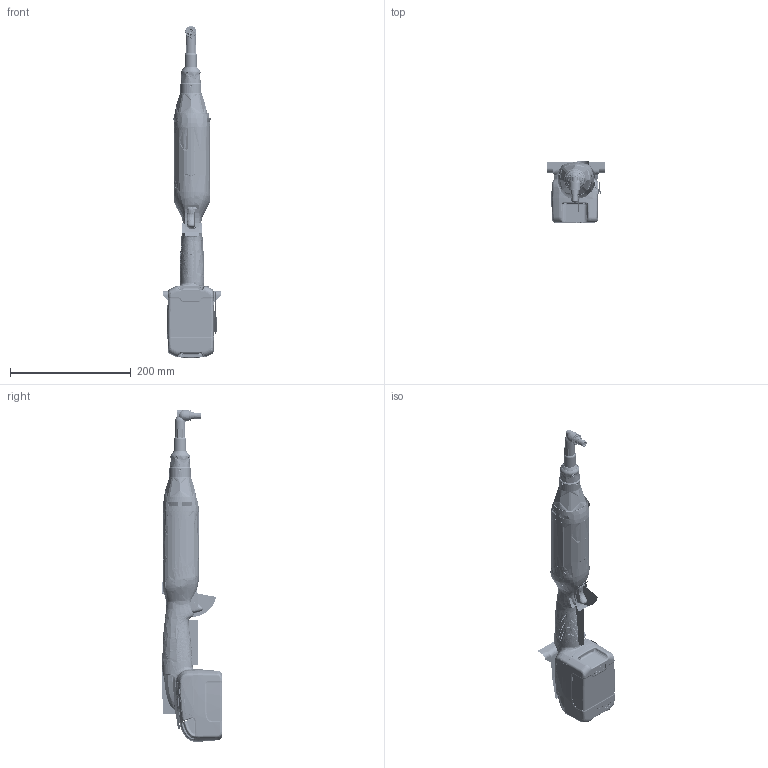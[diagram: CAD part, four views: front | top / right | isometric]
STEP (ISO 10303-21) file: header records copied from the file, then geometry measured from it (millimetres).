
FILE_DESCRIPTION((''),'2;1');
FILE_NAME('47519395001_ASM','2014-06-02T',('rryoung'),(''),'PRO/ENGINEER BY PARAMETRIC TECHNOLOGY CORPORATION, 2012450','PRO/ENGINEER BY PARAMETRIC TECHNOLOGY CORPORATION, 2012450','');
FILE_SCHEMA(('CONFIG_CONTROL_DESIGN'));
Products named in the file (76): 48617062M56; 48617062M55; 48617062M54; 48617062M52; 48617062M53; 48617062M34; 48617062M35; 48617062M36; 48617062M37; 48617062M38; 48617062M39; 48617062M40; 48617062M41; 48617062M42; 48617062M43; 48617062M44; 48617062M45; 48617062M46; 48617062M47; 48617062M48; 48617062M49; 48617062M50; 48617062M51; 48617062M1; 48617062M2; 48617062M3; 48617062M4; 48617062M5; 48617062M6; 48617062M7; 48617062M8; 48617062M9; 48617062M10; 48617062M11; 48617062M12; 48617062M13; 48617062M14; 48617062M15; 48617062M16; 48617062M17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
Assembly tree (86 placements, depth 3):
  47519395001_ASM
    48617062_ASM
      48617062M56
      48617062M55
      48617062M54
      48617062M52
      48617062M53
      48617062M34
      48617062M35
      48617062M36
      48617062M37
      48617062M38
      48617062M39
      48617062M40
      48617062M41
      48617062M42
      48617062M43
      48617062M44
      48617062M45
      48617062M46
      48617062M47
      48617062M48
      48617062M49
      48617062M50
      48617062M51
      48617062M1
      48617062M2
      48617062M3
      48617062M4
      48617062M5
      48617062M6
      48617062M7
      48617062M8
      48617062M9
      48617062M10
      48617062M11
      48617062M12  x2
      48617062M13  x2
      48617062M14  x2
      48617062M15  x2
      48617062M16  x2
      48617062M17  x2
      48617062M18  x2
      48617062M19  x2
      48617062M20  x2
      48617062M21  x2
      48617062M22  x2
      48617062M23
      48617062M24
      48617062M25
      48617062M26
      48617062M27
      48617062M28
      48617062M29
      48617062M30
      48617062M31
      48617062M32
      48617062M33
    24224537
    47507311001_ASM
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Bounding box: 96 x 101 x 550.35 mm (x, y, z)
Volume: 397417.7 mm3; surface area: 965465.9 mm2
Topology: 82 solids, 373 shells, 15103 faces, 39303 edges, 24533 vertices
Faces by surface type: plane 4808, bspline 4364, cylinder 3239, torus 1152, cone 837, extrusion 361, sphere 327, revolution 15
Entity records: 774867 total; most frequent: CARTESIAN_POINT 450454, ORIENTED_EDGE 75448, DIRECTION 52804, EDGE_CURVE 38762, VERTEX_POINT 24461, AXIS2_PLACEMENT_3D 19260, B_SPLINE_CURVE_WITH_KNOTS 16510, EDGE_LOOP 15562
